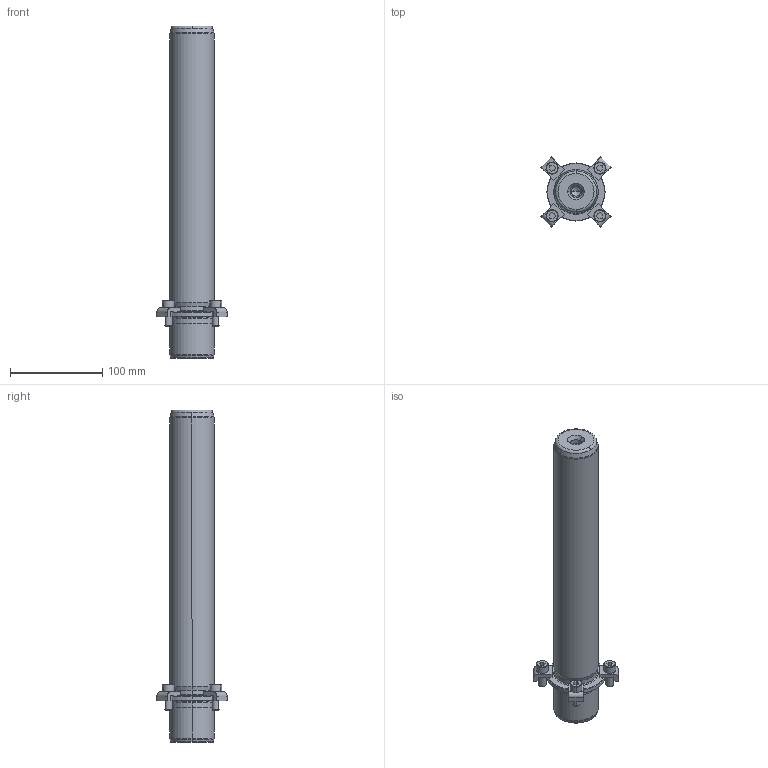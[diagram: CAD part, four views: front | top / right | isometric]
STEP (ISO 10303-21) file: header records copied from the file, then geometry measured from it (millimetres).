
FILE_DESCRIPTION((''),'2;1');
FILE_NAME('P21_048_315.stp','2008-12-23T13:40:12',(''),(''),'Mechanical Desktop 2009','Mechanical Desktop 2009',', , ');
FILE_SCHEMA(('CONFIG_CONTROL_DESIGN'));
Length unit declared in the file: millimetre
Products named in the file (2): Product; blmdl1
Assembly tree (1 placements, depth 2):
  Product
    blmdl1
Bounding box: 76.01 x 76.01 x 360 mm (x, y, z)
Volume: 660512.8 mm3; surface area: 71702.5 mm2
Topology: 9 solids, 9 shells, 195 faces, 477 edges, 309 vertices
Faces by surface type: plane 77, cylinder 52, cone 34, torus 16, bspline 16
Entity records: 6547 total; most frequent: CARTESIAN_POINT 1683, DIRECTION 1078, ORIENTED_EDGE 946, EDGE_CURVE 473, AXIS2_PLACEMENT_3D 424, VERTEX_POINT 309, CIRCLE 243, VECTOR 230
